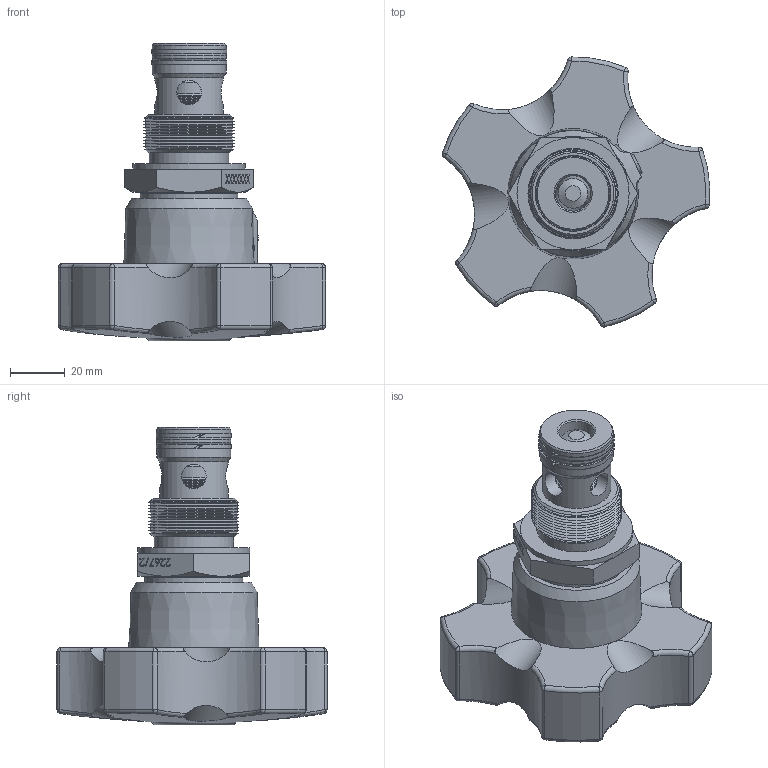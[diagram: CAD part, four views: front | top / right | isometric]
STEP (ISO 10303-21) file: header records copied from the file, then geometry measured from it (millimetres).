
FILE_DESCRIPTION (( 'STEP AP214' ), '1' );
FILE_NAME ('2267-2-34 VOLANTINO ABS.STEP', '2025-10-30T14:42:29', ( '' ), ( '' ), 'SwSTEP 2.0', 'SolidWorks 2025', '' );
FILE_SCHEMA (( 'AUTOMOTIVE_DESIGN' ));
Length unit declared in the file: millimetre
Products named in the file (16): INSERTO FILETTATO 257-1.005.03-38; 2267-2-34 VOLANTINO ABS; ASSIEME VOLANTINO DI MANOVRA 257-1.005.00-34; INSERTO ESAGONALE 257-1.005.02-34; OR 115; GRANO DI BLOCCAGGIO M5x8 INOX_Tipo18; VOLANTINO DI MANOVRA 257-1.005.00-34; BK 115; ANELLO DI FERMO 257-1.003.00-34; CAPPUCCIO VOLANTINO 257-2.007.00-38_Tipo38; VITE TESTA BOMBATA 2257-2.006.00-34; OR 130_OR2012; ANELLO ANTI ESTRUSIONE 267-2.022.00-34; CORPO CARTUCCIA FILETTATA 2267-2.101.00-34; SPILLO DI REGOLAZIONE 2267-2.002.00-34; DISCO FASCETTA 257-1.004.00-34
Assembly tree (16 placements, depth 3):
  2267-2-34 VOLANTINO ABS
    CORPO CARTUCCIA FILETTATA 2267-2.101.00-34
    SPILLO DI REGOLAZIONE 2267-2.002.00-34
    BK 115
    OR 115
    GRANO DI BLOCCAGGIO M5x8 INOX_Tipo18
    OR 130_OR2012
    VITE TESTA BOMBATA 2257-2.006.00-34
    ANELLO ANTI ESTRUSIONE 267-2.022.00-34  x2
    DISCO FASCETTA 257-1.004.00-34
    ANELLO DI FERMO 257-1.003.00-34
    ASSIEME VOLANTINO DI MANOVRA 257-1.005.00-34
      INSERTO ESAGONALE 257-1.005.02-34
      VOLANTINO DI MANOVRA 257-1.005.00-34
      INSERTO FILETTATO 257-1.005.03-38
    CAPPUCCIO VOLANTINO 257-2.007.00-38_Tipo38
Bounding box: 97.71 x 98.67 x 108.8 mm (x, y, z)
Volume: 219755.4 mm3; surface area: 63383.5 mm2
Topology: 15 solids, 15 shells, 1242 faces, 3089 edges, 1935 vertices
Faces by surface type: plane 588, cone 332, cylinder 198, bspline 69, torus 33, sphere 22
Full cylindrical faces by diameter (mm): 2.5 x1, 4.2 x2, 5 x19, 6.4 x1, 8.8 x1, 9 x4, 11 x1, 12 x1, 12.4 x1, 13 x2, 13.5 x1, 14.4 x1, 14.5 x1, 15 x2, 16 x1, 17 x2, 18 x1, 19.1 x1, 22.35 x2, 24 x1, 25 x1, 27 x3, 27.8 x1, 28 x1, 29 x1, 29.5 x1, 33 x1, 35 x1, 35.1 x1, 35.8 x1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
Entity records: 39329 total; most frequent: CARTESIAN_POINT 11670, DIRECTION 5498, ORIENTED_EDGE 5248, EDGE_CURVE 2624, AXIS2_PLACEMENT_3D 1990, VERTEX_POINT 1847, EDGE_LOOP 1689, VECTOR 1518
